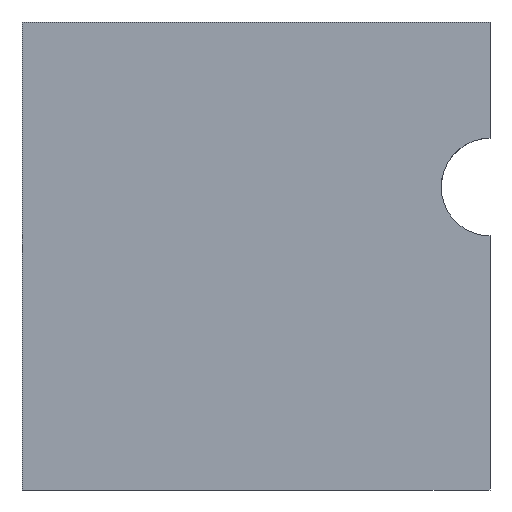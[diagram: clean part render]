
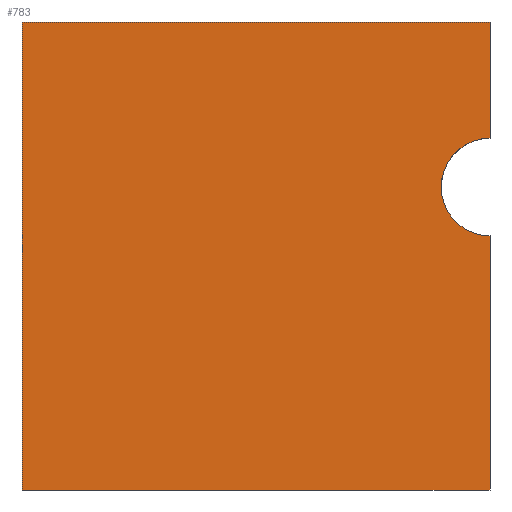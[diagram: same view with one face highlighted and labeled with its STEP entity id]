
A CAD part, left-side view. The second image highlights one B-rep face of the part: STEP entity #783.
In plain terms, the highlighted planar face has unit normal (-1, 0, 0).
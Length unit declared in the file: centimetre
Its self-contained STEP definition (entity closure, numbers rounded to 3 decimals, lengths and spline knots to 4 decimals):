
#5 = CARTESIAN_POINT ( 'NONE',  ( 0., 0., 751.5867 ) ) ;
#45 = DIRECTION ( 'NONE',  ( 1., 0., 0. ) ) ;
#109 = CARTESIAN_POINT ( 'NONE',  ( 0., 1000., 1000. ) ) ;
#171 = PLANE ( 'NONE',  #937 ) ;
#223 = LINE ( 'NONE', #1293, #1133 ) ;
#243 = CARTESIAN_POINT ( 'NONE',  ( 0., 0., 647.2736 ) ) ;
#249 = DIRECTION ( 'NONE',  ( 0., 0., -1. ) ) ;
#384 = CARTESIAN_POINT ( 'NONE',  ( 0., 0., 1000. ) ) ;
#395 = LINE ( 'NONE', #109, #1427 ) ;
#477 = DIRECTION ( 'NONE',  ( 0., 0., -1. ) ) ;
#488 = AXIS2_PLACEMENT_3D ( 'NONE', #243, #666, #1465 ) ;
#528 = CARTESIAN_POINT ( 'NONE',  ( 0., 0., 0. ) ) ;
#575 = DIRECTION ( 'NONE',  ( 0., -1., 0. ) ) ;
#631 = ORIENTED_EDGE ( 'NONE', *, *, #1287, .F. ) ;
#635 = CARTESIAN_POINT ( 'NONE',  ( 0., 1000., 0. ) ) ;
#666 = DIRECTION ( 'NONE',  ( -1., 0., 0. ) ) ;
#689 = ORIENTED_EDGE ( 'NONE', *, *, #820, .T. ) ;
#751 = CARTESIAN_POINT ( 'NONE',  ( 0., 1000., 0. ) ) ;
#771 = CARTESIAN_POINT ( 'NONE',  ( 0., 1000., 1000. ) ) ;
#776 = VERTEX_POINT ( 'NONE', #635 ) ;
#780 = VERTEX_POINT ( 'NONE', #1088 ) ;
#783 = ADVANCED_FACE ( 'NONE', ( #1371 ), #171, .F. ) ;
#820 = EDGE_CURVE ( 'NONE', #1136, #776, #1846, .T. ) ;
#851 = DIRECTION ( 'NONE',  ( 0., -1., 0. ) ) ;
#917 = EDGE_CURVE ( 'NONE', #776, #1192, #1213, .T. ) ;
#928 = ORIENTED_EDGE ( 'NONE', *, *, #1444, .F. ) ;
#937 = AXIS2_PLACEMENT_3D ( 'NONE', #771, #45, #1529 ) ;
#989 = ORIENTED_EDGE ( 'NONE', *, *, #1266, .F. ) ;
#1088 = CARTESIAN_POINT ( 'NONE',  ( 0., 0., 1000. ) ) ;
#1133 = VECTOR ( 'NONE', #1902, 100. ) ;
#1136 = VERTEX_POINT ( 'NONE', #1655 ) ;
#1180 = ORIENTED_EDGE ( 'NONE', *, *, #1548, .F. ) ;
#1189 = EDGE_LOOP ( 'NONE', ( #1180, #928, #631, #989, #689, #1298 ) ) ;
#1192 = VERTEX_POINT ( 'NONE', #528 ) ;
#1213 = LINE ( 'NONE', #751, #1630 ) ;
#1250 = VERTEX_POINT ( 'NONE', #1631 ) ;
#1266 = EDGE_CURVE ( 'NONE', #1136, #780, #395, .T. ) ;
#1271 = LINE ( 'NONE', #384, #1898 ) ;
#1287 = EDGE_CURVE ( 'NONE', #780, #1776, #1271, .T. ) ;
#1293 = CARTESIAN_POINT ( 'NONE',  ( 0., 0., 1000. ) ) ;
#1298 = ORIENTED_EDGE ( 'NONE', *, *, #917, .T. ) ;
#1322 = CIRCLE ( 'NONE', #488, 104.3131 ) ;
#1371 = FACE_OUTER_BOUND ( 'NONE', #1189, .T. ) ;
#1427 = VECTOR ( 'NONE', #851, 100. ) ;
#1444 = EDGE_CURVE ( 'NONE', #1776, #1250, #1322, .T. ) ;
#1465 = DIRECTION ( 'NONE',  ( 0., 0., 1. ) ) ;
#1529 = DIRECTION ( 'NONE',  ( 0., 0., -1. ) ) ;
#1548 = EDGE_CURVE ( 'NONE', #1250, #1192, #223, .T. ) ;
#1630 = VECTOR ( 'NONE', #575, 100. ) ;
#1631 = CARTESIAN_POINT ( 'NONE',  ( 0., 0., 542.9605 ) ) ;
#1655 = CARTESIAN_POINT ( 'NONE',  ( 0., 1000., 1000. ) ) ;
#1776 = VERTEX_POINT ( 'NONE', #5 ) ;
#1825 = CARTESIAN_POINT ( 'NONE',  ( 0., 1000., 1000. ) ) ;
#1846 = LINE ( 'NONE', #1825, #1886 ) ;
#1886 = VECTOR ( 'NONE', #477, 100. ) ;
#1898 = VECTOR ( 'NONE', #249, 100. ) ;
#1902 = DIRECTION ( 'NONE',  ( 0., 0., -1. ) ) ;
